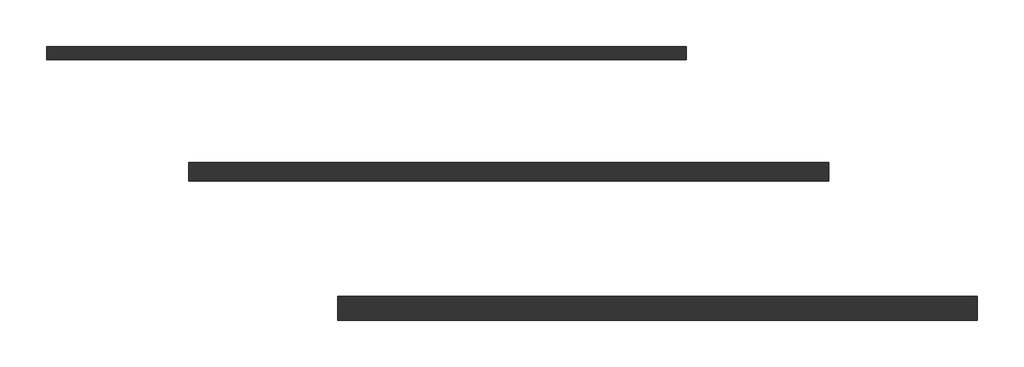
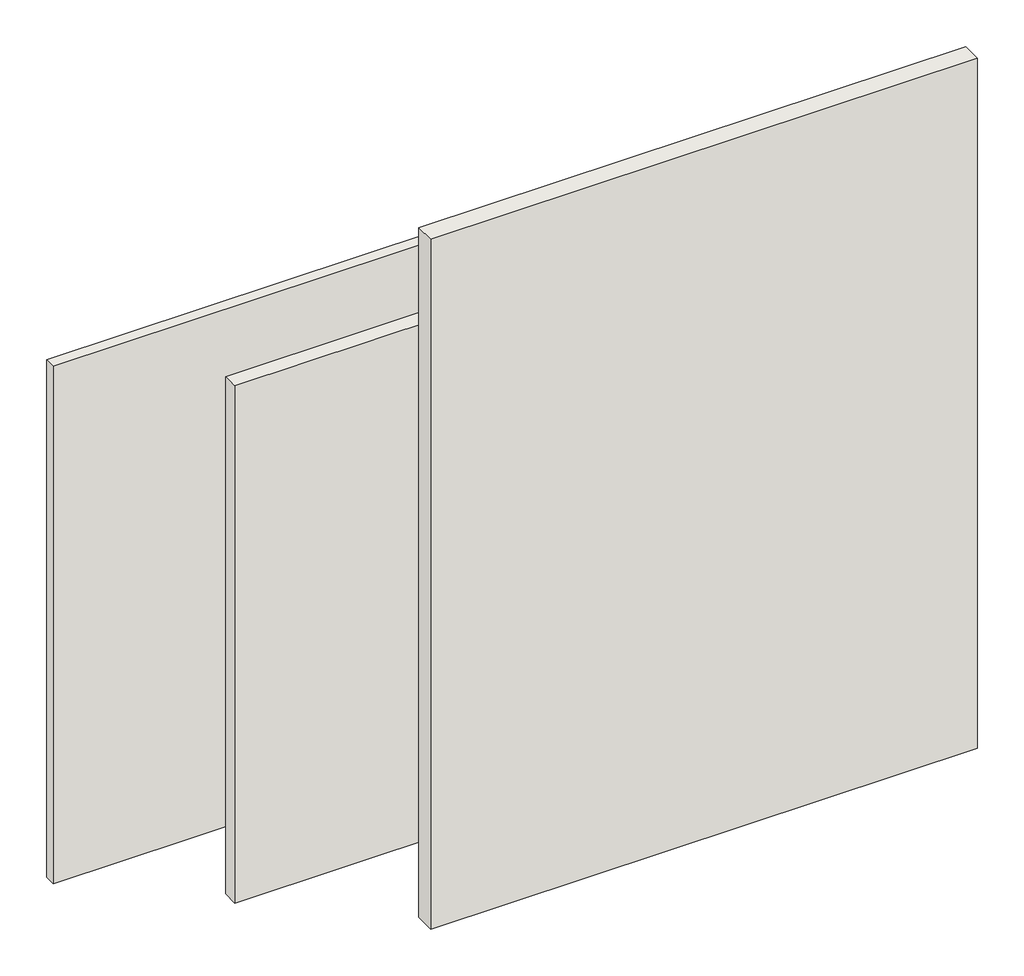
# One storey: 3 walls.
"""IFC4 building model written with IfcOpenShell, lengths in millimetres."""

from ifc_helpers import new_model, si_unit, origin, origin_with_axes, place, context, project, spatial, polyline, outline, extrude, element, save

model = new_model("IFC4")

# Units and contexts
model_context = context("Model", 3, world=origin())
ifc_project = project(units=[si_unit("LENGTHUNIT", "METRE", prefix="MILLI")], contexts=[model_context])

# Site, building, storey
site = spatial("IfcSite", under=ifc_project)
building = spatial("IfcBuilding", under=site)
storey = spatial("IfcBuildingStorey", under=building, Name="Уровень 1", Elevation=0.0)

# Walls
placement = place(None, origin())
element("IfcWall", 1, ObjectType="Облицовка КНАУФ С635 Применение внутри здания ПC50/50 ПН50х40 Файерборд 12.5", at=placement, inside=storey, context=model_context, shape_type="SweptSolid", body=[
    extrude(outline(polyline([(2053.3770181, 265.4725864), (-946.6229819, 265.4725864), (-946.6229819, 327.9725864), (2053.3770181, 327.9725864), (2053.3770181, 265.4725864)])), origin_with_axes(), (0.0, 0.0, 1.0), 3000.0),
])
element("IfcWall", 2, ObjectType="Облицовка КНАУФ С635 Применение внутри здания ПC75/50 ПН75х40 Файерборд 12.5", at=placement, inside=storey, context=model_context, shape_type="SweptSolid", body=[
    extrude(outline(polyline([(2720.4053331, -304.3136292), (-279.5946669, -304.3136292), (-279.5946669, -216.8136292), (2720.4053331, -216.8136292), (2720.4053331, -304.3136292)])), origin_with_axes(), (0.0, 0.0, 1.0), 3000.0),
])
element("IfcWall", 3, ObjectType="Облицовка КНАУФ С635 Применение внутри здания ПC100/50 ПН100х40 Файерборд 12.5", at=placement, inside=storey, context=model_context, shape_type="SweptSolid", body=[
    extrude(outline(polyline([(3417.6060763, -956.8136292), (417.6060763, -956.8136292), (417.6060763, -844.3136292), (3417.6060763, -844.3136292), (3417.6060763, -956.8136292)])), origin_with_axes(), (0.0, 0.0, 1.0), 4000.0),
])

save(model, "model.ifc")
